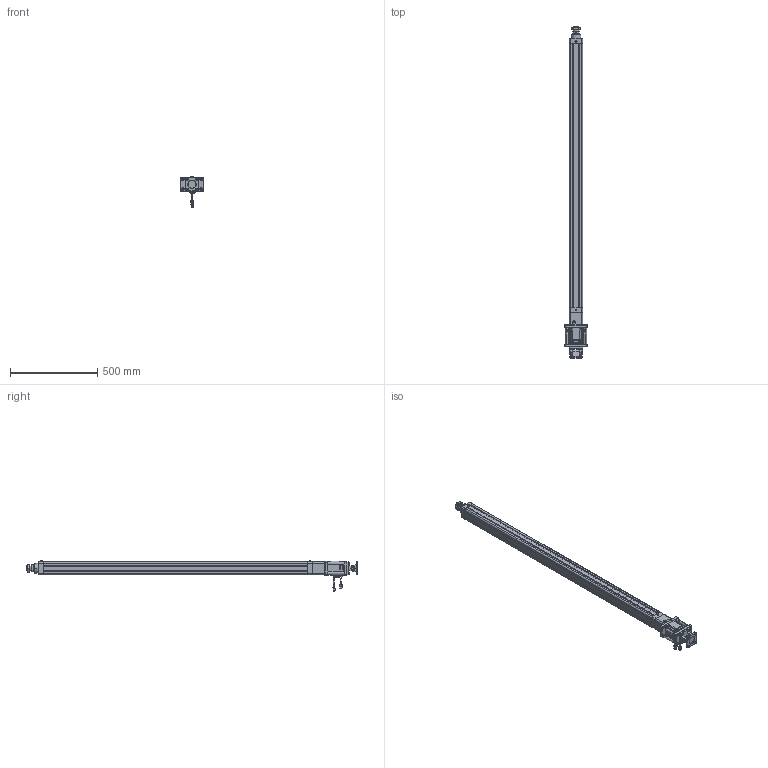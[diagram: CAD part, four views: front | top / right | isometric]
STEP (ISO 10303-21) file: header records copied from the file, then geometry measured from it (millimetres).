
FILE_DESCRIPTION((''),'2;1');
FILE_NAME('HE63-D-100-X1_ASM','2020-05-19T',('ASUS20200'),(''),'CREO PARAMETRIC BY PTC INC, 2014190','CREO PARAMETRIC BY PTC INC, 2014190','');
FILE_SCHEMA(('CONFIG_CONTROL_DESIGN'));
Products named in the file (33): HE63-D-P-001-X1; HE63-D-P-002-X1; HE63-D-P-003-X1; LGLM-M8-22; HE63-D-009-X1; HE63-D-010-X1; M6X16; _MHMF082L1A2; _CABLE_MOTOR_BOTTOM_05; _CABLE_MOTOR_TOP_05; _MOTOR_CONNECTOR_2; _CABLE_BRAKE_BOTTOM_05; _CABLE_BRAKE_TOP_05; _MHMF_CONNECTOR_9_PIN_A6; MHMF082L1A2M2_1_ASM; SLM-01; YZ-M6X1; SKT-16; TD-6; JDB405030; JX6X6X25; HE63-D-P-005-X1; HE63-D-P-004-X1; HE63-D-P-008-X1; M6X25; HE63-FB-LG; F-HE63FB; M8X20; F-SE63CB; F-SE63CB-XD; F-SE63CB_ASM; F-SE63CA; HE63-D-100-X1_ASM
Assembly tree (62 placements, depth 3):
  HE63-D-100-X1_ASM
    HE63-D-P-001-X1
    HE63-D-P-002-X1
    HE63-D-P-003-X1
    LGLM-M8-22  x8
    HE63-D-009-X1
    HE63-D-010-X1
    M6X16  x4
    MHMF082L1A2M2_1_ASM
      _MHMF082L1A2
      _CABLE_MOTOR_BOTTOM_05
      _CABLE_MOTOR_TOP_05
      _MOTOR_CONNECTOR_2
      _CABLE_BRAKE_BOTTOM_05
      _CABLE_BRAKE_TOP_05
      _MHMF_CONNECTOR_9_PIN_A6
    SLM-01
    YZ-M6X1
    SKT-16
    TD-6  x4
    JDB405030
    JX6X6X25
    HE63-D-P-005-X1
    HE63-D-P-004-X1
    HE63-D-P-008-X1
    M6X25  x4
    HE63-FB-LG  x4
    F-HE63FB
    M8X20  x12
    F-SE63CB_ASM
      F-SE63CB
      F-SE63CB-XD
    F-SE63CA
Bounding box: 130 x 1899 x 179.15 mm (x, y, z)
Volume: 4713085.1 mm3; surface area: 1456734 mm2
Topology: 60 solids, 100 shells, 3133 faces, 7481 edges, 4654 vertices
Faces by surface type: plane 1262, cylinder 935, cone 711, torus 178, sphere 44, bspline 3
Entity records: 72358 total; most frequent: CARTESIAN_POINT 13387, DIRECTION 13093, ORIENTED_EDGE 11446, EDGE_CURVE 5785, AXIS2_PLACEMENT_3D 4973, VERTEX_POINT 3629, VECTOR 3147, LINE 3147
